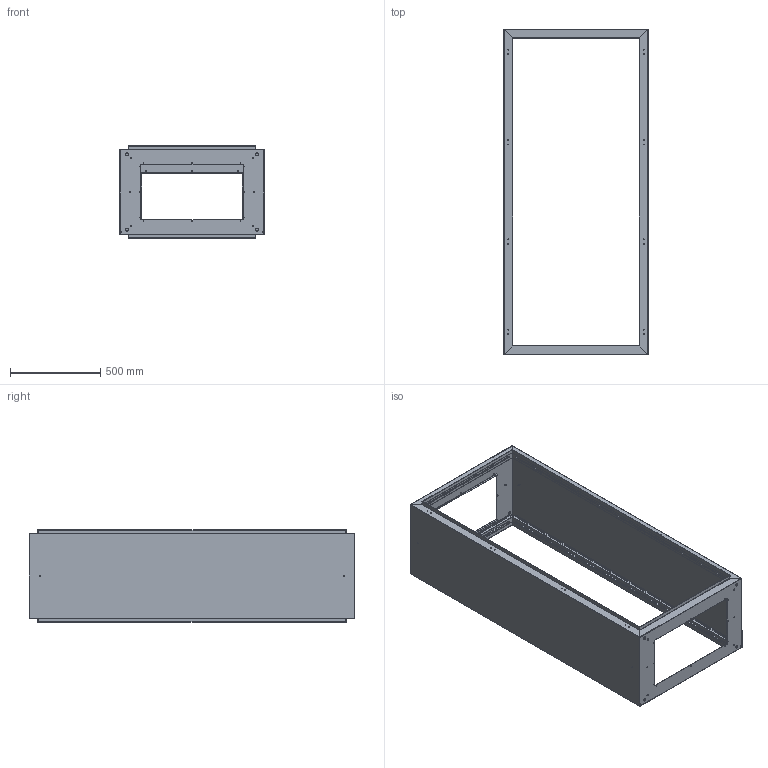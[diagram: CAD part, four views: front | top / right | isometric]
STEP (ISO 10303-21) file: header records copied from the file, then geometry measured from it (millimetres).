
FILE_DESCRIPTION (( 'STEP AP203' ), '1' );
FILE_NAME ('800x1800x500.STEP', '2021-11-11T16:47:48', ( '' ), ( '' ), 'SwSTEP 2.0', 'SolidWorks 2019', '' );
FILE_SCHEMA (( 'CONFIG_CONTROL_DESIGN' ));
Length unit declared in the file: millimetre
Products named in the file (4): Yan Kapak 1,5mm_monoblok_tekkapakrevize_PP 16.1005- 1800Yx500D YAN; Alt Kapak 1,5mm_monoblok_tekkapakrevize_PP 16.1020 800Gx500D ALT; 800x1800x500; Üst Kapak 1,5mm_monoblok_tekkapakrevize_PP 16.1011 800Gx500D šST
Assembly tree (4 placements, depth 2):
  800x1800x500
    Alt Kapak 1,5mm_monoblok_tekkapakrevize_PP 16.1020 800Gx500D ALT
    Üst Kapak 1,5mm_monoblok_tekkapakrevize_PP 16.1011 800Gx500D šST
    Yan Kapak 1,5mm_monoblok_tekkapakrevize_PP 16.1005- 1800Yx500D YAN  x2
Bounding box: 800 x 1800 x 512 mm (x, y, z)
Volume: 5214330.3 mm3; surface area: 7041018.1 mm2
Topology: 4 solids, 4 shells, 5036 faces, 14820 edges, 9800 vertices
Faces by surface type: plane 3276, cylinder 1744, bspline 16
Entity records: 114986 total; most frequent: CARTESIAN_POINT 20015, ORIENTED_EDGE 19504, DIRECTION 18638, EDGE_CURVE 9752, LINE 7456, VECTOR 7456, VERTEX_POINT 6440, AXIS2_PLACEMENT_3D 5591
